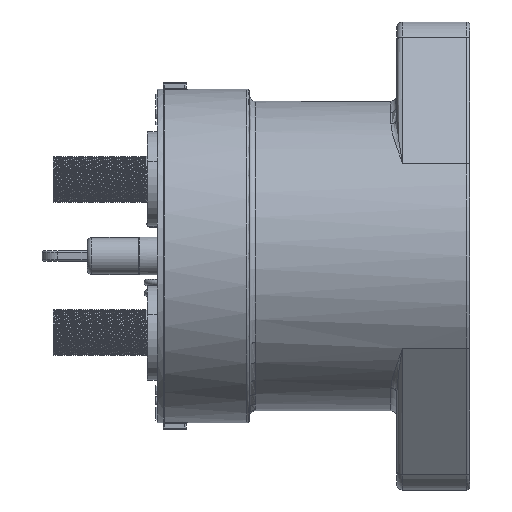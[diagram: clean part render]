
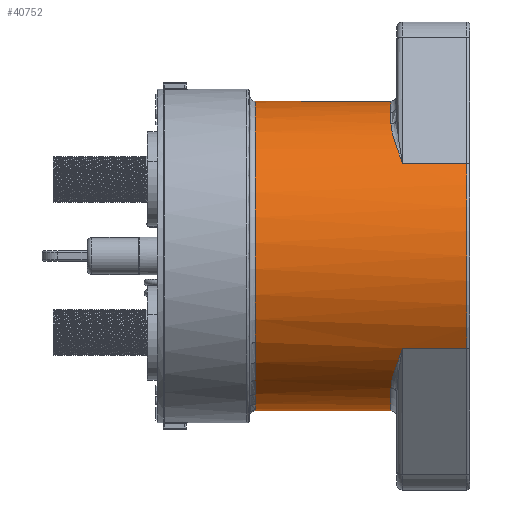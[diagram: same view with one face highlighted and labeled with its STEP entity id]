
A CAD part, left-side view. The second image highlights one B-rep face of the part: STEP entity #40752.
In plain terms, the highlighted cylindrical face has radius 26.9 mm (diameter 53.8 mm), a partial arc.
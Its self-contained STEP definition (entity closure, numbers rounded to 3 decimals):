
#3263=CARTESIAN_POINT('',(17.5,13.208,-20.429));
#3264=CARTESIAN_POINT('',(17.081,13.318,-20.788));
#3265=CARTESIAN_POINT('',(16.313,13.492,-21.406));
#3266=CARTESIAN_POINT('',(15.159,13.658,-22.235));
#3267=CARTESIAN_POINT('',(14.426,13.7,-22.709));
#3268=CARTESIAN_POINT('',(14.052,13.7,-22.938));
#3273=DIRECTION('',(0.,-1.,0.));
#3274=VECTOR('',#3273,24.092);
#3275=CARTESIAN_POINT('',(17.5,37.3,-20.429));
#3276=LINE('',#3275,#3274);
#3280=DIRECTION('',(0.,-1.,0.));
#3281=VECTOR('',#3280,24.092);
#3282=CARTESIAN_POINT('',(17.5,37.3,20.429));
#3283=LINE('',#3282,#3281);
#3287=CARTESIAN_POINT('',(14.052,13.7,22.938));
#3288=CARTESIAN_POINT('',(14.426,13.7,22.709));
#3289=CARTESIAN_POINT('',(15.159,13.658,22.235));
#3290=CARTESIAN_POINT('',(16.313,13.492,21.406));
#3291=CARTESIAN_POINT('',(17.081,13.318,20.788));
#3292=CARTESIAN_POINT('',(17.5,13.208,20.429));
#3297=CARTESIAN_POINT('',(0.,13.7,0.));
#3298=DIRECTION('',(0.,-1.,0.));
#3299=DIRECTION('',(0.522,0.,0.853));
#3300=AXIS2_PLACEMENT_3D('',#3297,#3298,#3299);
#3305=CARTESIAN_POINT('',(-21.573,11.7,16.069));
#3306=CARTESIAN_POINT('',(-21.069,11.934,16.746));
#3307=CARTESIAN_POINT('',(-20.001,12.401,18.047));
#3308=CARTESIAN_POINT('',(-18.22,13.037,19.845));
#3309=CARTESIAN_POINT('',(-16.564,13.455,21.226));
#3310=CARTESIAN_POINT('',(-15.159,13.658,22.235));
#3311=CARTESIAN_POINT('',(-14.426,13.7,22.709));
#3312=CARTESIAN_POINT('',(-14.052,13.7,22.938));
#3317=DIRECTION('',(0.,1.,0.));
#3318=VECTOR('',#3317,11.2);
#3319=CARTESIAN_POINT('',(-21.573,0.5,16.069));
#3320=LINE('',#3319,#3318);
#3324=DIRECTION('',(0.,-1.,0.));
#3325=VECTOR('',#3324,11.2);
#3326=CARTESIAN_POINT('',(-21.573,11.7,-16.069));
#3327=LINE('',#3326,#3325);
#3331=CARTESIAN_POINT('',(-14.052,13.7,
-22.938));
#3332=CARTESIAN_POINT('',(-14.426,13.7,
-22.709));
#3333=CARTESIAN_POINT('',(-15.159,13.658,
-22.235));
#3334=CARTESIAN_POINT('',(-16.564,13.455,
-21.226));
#3335=CARTESIAN_POINT('',(-18.22,13.037,
-19.845));
#3336=CARTESIAN_POINT('',(-20.001,12.401,
-18.047));
#3337=CARTESIAN_POINT('',(-21.069,11.934,
-16.746));
#3338=CARTESIAN_POINT('',(-21.573,11.7,-16.069));
#3391=CARTESIAN_POINT('',(0.,13.7,0.));
#3392=DIRECTION('',(0.,-1.,0.));
#3393=DIRECTION('',(-0.522,0.,-0.853));
#3394=AXIS2_PLACEMENT_3D('',#3391,#3392,#3393);
#3399=CARTESIAN_POINT('',(0.,13.7,0.));
#3400=DIRECTION('',(0.,-1.,0.));
#3401=DIRECTION('',(0.,0.,-1.));
#3402=AXIS2_PLACEMENT_3D('',#3399,#3400,#3401);
#4127=CARTESIAN_POINT('',(0.,0.5,0.));
#4128=DIRECTION('',(0.,-1.,0.));
#4129=DIRECTION('',(-0.802,0.,0.597));
#4130=AXIS2_PLACEMENT_3D('',#4127,#4128,#4129);
#11010=CARTESIAN_POINT('',(0.,37.3,0.));
#11011=DIRECTION('',(0.,-1.,0.));
#11012=DIRECTION('',(0.651,0.,0.759));
#11013=AXIS2_PLACEMENT_3D('',#11010,#11011,#11012);
#35683=CARTESIAN_POINT('',(-21.573,11.7,16.069));
#35685=VERTEX_POINT('',#35683);
#35795=VERTEX_POINT('',#3312);
#35979=CARTESIAN_POINT('',(-21.573,0.5,16.069));
#35980=VERTEX_POINT('',#35979);
#35987=CARTESIAN_POINT('',(-14.052,13.7,-22.938));
#35989=VERTEX_POINT('',#35987);
#36033=CARTESIAN_POINT('',(-21.573,11.7,-16.069));
#36034=VERTEX_POINT('',#36033);
#36102=CARTESIAN_POINT('',(-21.573,0.5,-16.069));
#36103=VERTEX_POINT('',#36102);
#36259=CARTESIAN_POINT('',(0.,13.7,-26.9));
#36260=CARTESIAN_POINT('',(14.052,13.7,-22.938));
#36261=VERTEX_POINT('',#36259);
#36262=VERTEX_POINT('',#36260);
#36434=CARTESIAN_POINT('',(14.052,13.7,22.938));
#36435=VERTEX_POINT('',#36434);
#37714=CARTESIAN_POINT('',(17.5,37.3,20.429));
#37715=CARTESIAN_POINT('',(17.5,13.208,20.429));
#37716=VERTEX_POINT('',#37714);
#37717=VERTEX_POINT('',#37715);
#37718=CARTESIAN_POINT('',(17.5,37.3,-20.429));
#37719=CARTESIAN_POINT('',(17.5,13.208,-20.429));
#37720=VERTEX_POINT('',#37718);
#37721=VERTEX_POINT('',#37719);
#40720=CARTESIAN_POINT('',(0.,53.3,0.));
#40721=DIRECTION('',(0.,-1.,0.));
#40722=DIRECTION('',(0.,0.,-1.));
#40723=AXIS2_PLACEMENT_3D('',#40720,#40721,#40722);
#40724=CYLINDRICAL_SURFACE('',#40723,26.9);
#40726=ORIENTED_EDGE('',*,*,#40725,.T.);
#40728=ORIENTED_EDGE('',*,*,#40727,.T.);
#40730=ORIENTED_EDGE('',*,*,#40729,.F.);
#40732=ORIENTED_EDGE('',*,*,#40731,.F.);
#40734=ORIENTED_EDGE('',*,*,#40733,.F.);
#40736=ORIENTED_EDGE('',*,*,#40735,.T.);
#40737=ORIENTED_EDGE('',*,*,#40687,.F.);
#40739=ORIENTED_EDGE('',*,*,#40738,.T.);
#40741=ORIENTED_EDGE('',*,*,#40740,.F.);
#40743=ORIENTED_EDGE('',*,*,#40742,.F.);
#40745=ORIENTED_EDGE('',*,*,#40744,.T.);
#40747=ORIENTED_EDGE('',*,*,#40746,.F.);
#40749=ORIENTED_EDGE('',*,*,#40748,.F.);
#40750=EDGE_LOOP('',(#40726,#40728,#40730,#40732,#40734,#40736,#40737,#40739,
#40741,#40743,#40745,#40747,#40749));
#40751=FACE_OUTER_BOUND('',#40750,.F.);
#3269=B_SPLINE_CURVE_WITH_KNOTS('',3,(#3263,#3264,#3265,#3266,#3267,#3268),
.UNSPECIFIED.,.F.,.F.,(4,1,1,4),(0.,0.391,0.696,1.),
.UNSPECIFIED.);
#3293=B_SPLINE_CURVE_WITH_KNOTS('',3,(#3287,#3288,#3289,#3290,#3291,#3292),
.UNSPECIFIED.,.F.,.F.,(4,1,1,4),(0.,0.304,0.609,1.),
.UNSPECIFIED.);
#3301=CIRCLE('',#3300,26.9);
#3313=B_SPLINE_CURVE_WITH_KNOTS('',3,(#3305,#3306,#3307,#3308,#3309,#3310,#3311,
#3312),.UNSPECIFIED.,.F.,.F.,(4,1,1,1,1,4),(0.,0.25,0.5,0.75,0.875,
1.),.UNSPECIFIED.);
#3339=B_SPLINE_CURVE_WITH_KNOTS('',3,(#3331,#3332,#3333,#3334,#3335,#3336,#3337,
#3338),.UNSPECIFIED.,.F.,.F.,(4,1,1,1,1,4),(0.,0.125,0.25,0.5,0.75,
1.),.UNSPECIFIED.);
#3395=CIRCLE('',#3394,26.9);
#3403=CIRCLE('',#3402,26.9);
#4131=CIRCLE('',#4130,26.9);
#11014=CIRCLE('',#11013,26.9);
#40687=EDGE_CURVE('',#36435,#37717,#3293,.T.);
#40725=EDGE_CURVE('',#35989,#36261,#3395,.T.);
#40727=EDGE_CURVE('',#36261,#36262,#3403,.T.);
#40729=EDGE_CURVE('',#37721,#36262,#3269,.T.);
#40731=EDGE_CURVE('',#37720,#37721,#3276,.T.);
#40733=EDGE_CURVE('',#37716,#37720,#11014,.T.);
#40735=EDGE_CURVE('',#37716,#37717,#3283,.T.);
#40738=EDGE_CURVE('',#36435,#35795,#3301,.T.);
#40740=EDGE_CURVE('',#35685,#35795,#3313,.T.);
#40742=EDGE_CURVE('',#35980,#35685,#3320,.T.);
#40744=EDGE_CURVE('',#35980,#36103,#4131,.T.);
#40746=EDGE_CURVE('',#36034,#36103,#3327,.T.);
#40748=EDGE_CURVE('',#35989,#36034,#3339,.T.);
#40752=ADVANCED_FACE('',(#40751),#40724,.T.);
